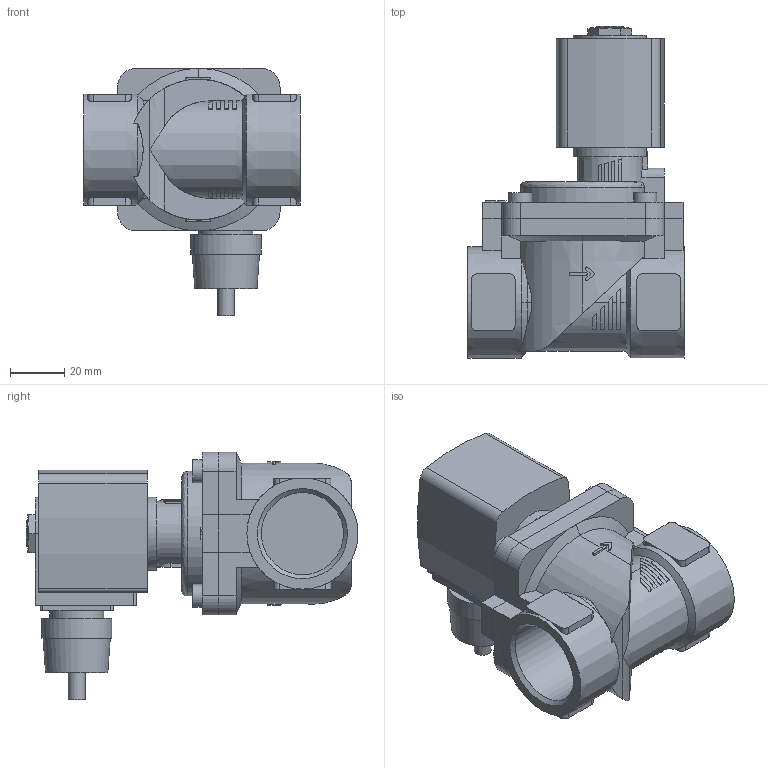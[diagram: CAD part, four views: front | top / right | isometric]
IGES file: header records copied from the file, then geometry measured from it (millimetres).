
Start section: Data from Parasolid IGES Translator 26.0.171, Copyright(c) 2006 Siemens PLM Software. All Rights Reserved.
Global section: file name: 6281-378219-2_2-Way_Solenoid_Valve__Servo-assisted__General_Purpose.igs; native system: By Siemens PLM Incorporated; preprocessor: XPlus GENERIC/IGES 26.0.171; author: Noname; organization: Noname; date: 20240624.115910; units: millimetre
Bounding box: 80 x 122.5 x 91.3 mm (x, y, z)
Surface area: 50073.7 mm2 (no closed solid volume)
Topology: 0 solids, 0 shells, 311 faces, 1610 edges, 1584 vertices
Faces by surface type: extrusion 184, revolution 127
